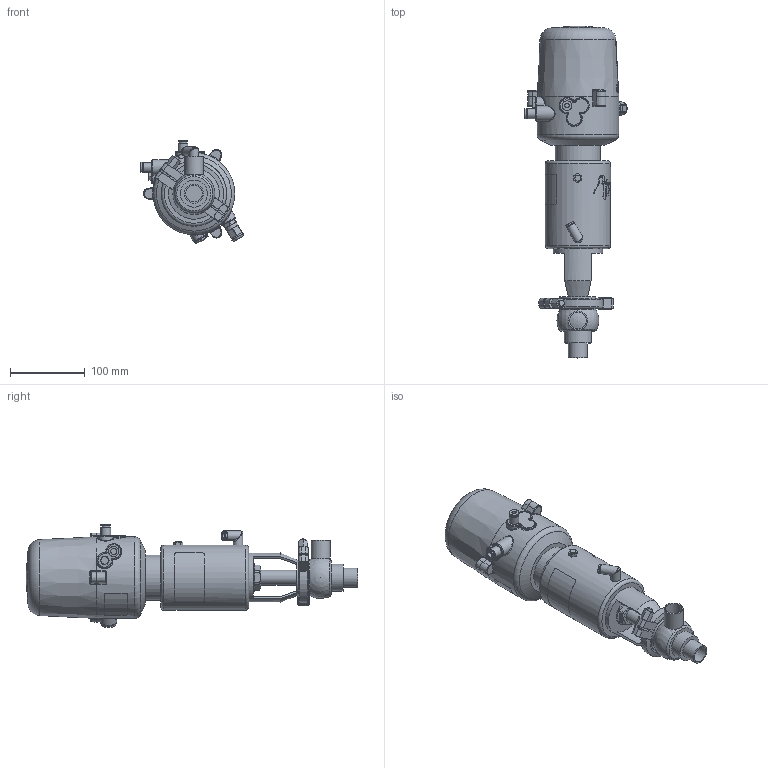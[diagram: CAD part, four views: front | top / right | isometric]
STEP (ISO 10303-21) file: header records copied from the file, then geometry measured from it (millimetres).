
FILE_DESCRIPTION (( 'STEP AP214' ), '1' );
FILE_NAME ('INNOVA N L W OD 1 T1 AS NC & C-TOP S_10.240.16.0055.STEP', '2024-08-06T08:02:05', ( '' ), ( '' ), 'SwSTEP 2.0', 'SolidWorks 2023', '' );
FILE_SCHEMA (( 'AUTOMOTIVE_DESIGN' ));
Length unit declared in the file: millimetre
Products named in the file (7): 10.240.15.0014_T1 AS P0; 10.240.15.0010_DN 025; 10.240.15.0017_Estàndard; 10.240.15.0002_OD 1"; INNOVA N L W OD 1 T1 AS NC & C-TOP S_10.240.16.0055; 10.426.15.0001_C-TOP S - 1 EV; 10.240.15.0001_DN 025
Assembly tree (6 placements, depth 2):
  INNOVA N L W OD 1 T1 AS NC & C-TOP S_10.240.16.0055
    10.240.15.0002_OD 1"
    10.240.15.0010_DN 025
    10.240.15.0014_T1 AS P0
    10.240.15.0017_Estàndard
    10.426.15.0001_C-TOP S - 1 EV
    10.240.15.0001_DN 025
Bounding box: 136.88 x 443 x 137.63 mm (x, y, z)
Volume: 2359765.6 mm3; surface area: 193732.8 mm2
Topology: 6 solids, 6 shells, 1104 faces, 2655 edges, 1770 vertices
Faces by surface type: plane 375, cylinder 331, cone 195, bspline 160, torus 37, sphere 6
Full cylindrical faces by diameter (mm): 0.371 x17, 0.512 x16, 0.658 x16, 0.795 x16, 0.94 x15, 1.098 x15, 1.241 x13, 1.382 x13, 1.523 x11, 1.669 x10, 2.201 x1, 4 x2, 5.5 x2, 6 x2, 6.15 x1, 8 x4, 8.5 x1, 10 x1, 10.5 x1, 11 x2, 12.5 x3, 13 x2, 13.5 x2, 16 x1, 17 x3, 20 x3, 20.5 x1, 22 x2, 22.1 x2, 25.4 x2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
Entity records: 56820 total; most frequent: CARTESIAN_POINT 26744, ORIENTED_EDGE 4514, DIRECTION 3623, EDGE_CURVE 2257, VERTEX_POINT 1601, EDGE_LOOP 1550, AXIS2_PLACEMENT_3D 1479, FACE_OUTER_BOUND 1317
